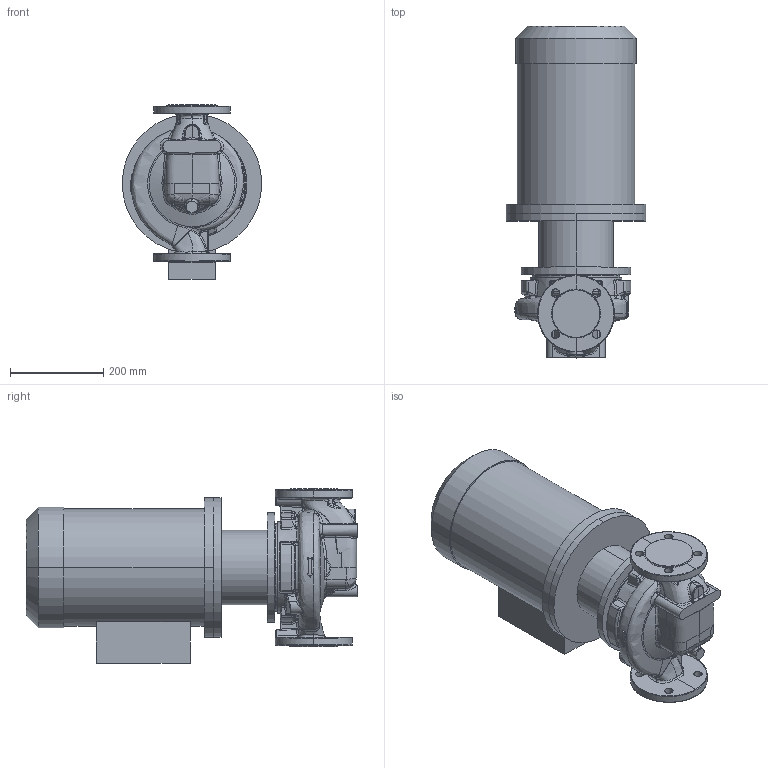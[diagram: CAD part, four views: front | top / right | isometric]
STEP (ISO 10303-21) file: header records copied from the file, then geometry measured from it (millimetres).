
FILE_DESCRIPTION (( 'STEP AP203' ), '1' );
FILE_NAME ('KRL 50-160-2-7,5.STEP', '2026-04-03T09:36:14', ( '' ), ( '' ), 'SwSTEP 2.0', 'SolidWorks 2016', '' );
FILE_SCHEMA (( 'CONFIG_CONTROL_DESIGN' ));
Length unit declared in the file: millimetre
Products named in the file (1): KRL 50-160-2-7,5
Bounding box: 300 x 713.3 x 376 mm (x, y, z)
Volume: 32676947.7 mm3; surface area: 1198822.6 mm2
Topology: 4 solids, 4 shells, 761 faces, 1822 edges, 1057 vertices
Faces by surface type: bspline 413, cylinder 135, plane 96, sphere 57, cone 34, torus 26
Entity records: 79985 total; most frequent: CARTESIAN_POINT 65813, ORIENTED_EDGE 3582, DIRECTION 2100, EDGE_CURVE 1791, VERTEX_POINT 1057, AXIS2_PLACEMENT_3D 933, B_SPLINE_CURVE_WITH_KNOTS 841, EDGE_LOOP 796
